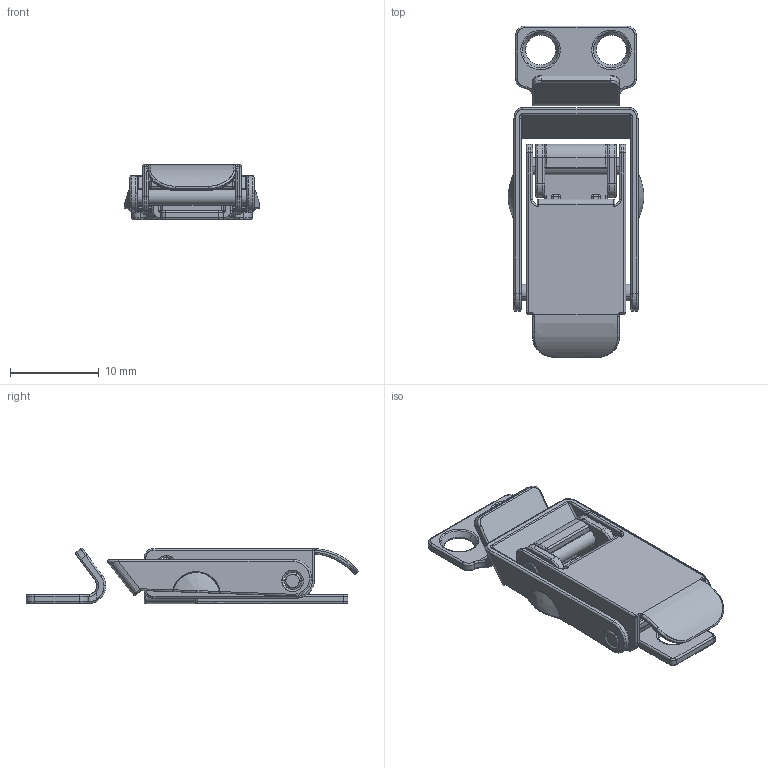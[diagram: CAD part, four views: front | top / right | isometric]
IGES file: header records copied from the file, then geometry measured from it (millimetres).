
Start section: SolidWorks IGES file using analytic representation for surfaces
Global section: file name: D:\D\由鑫國際內部資料\內部資料\3D圖檔\2012 NEW\TSL-163-1\TSL-163-1.IGS,15HSolidWorks; native system: 2010; preprocessor: SolidWorks 2010; author: Deathkiller; date: 131219.170740; units: millimetre
Bounding box: 15.31 x 37.46 x 6.22 mm (x, y, z)
Surface area: 2733.9 mm2 (no closed solid volume)
Topology: 0 solids, 0 shells, 582 faces, 4770 edges, 4743 vertices
Faces by surface type: bspline 298, revolution 284
